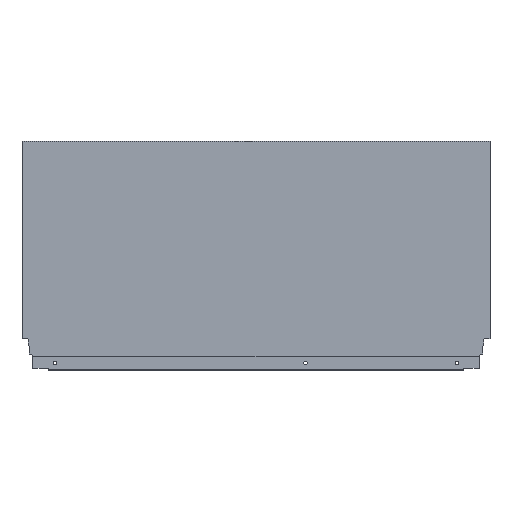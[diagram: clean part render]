
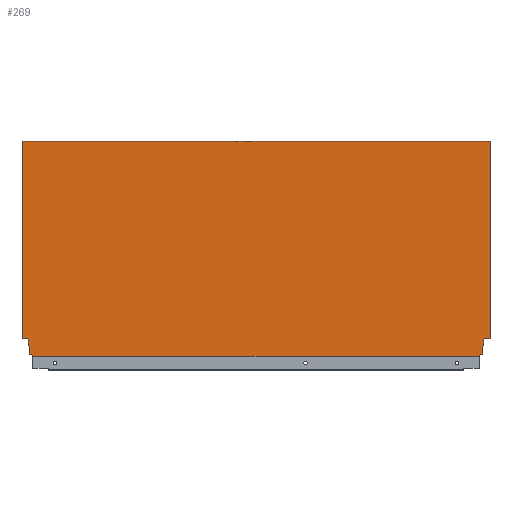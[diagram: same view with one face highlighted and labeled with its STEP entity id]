
A CAD part, top view. The second image highlights one B-rep face of the part: STEP entity #269.
In plain terms, the highlighted planar face has unit normal (0, 0, 1).
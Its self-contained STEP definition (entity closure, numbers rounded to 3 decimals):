
#25 = EDGE_CURVE ( 'NONE', #1181, #1217, #437, .T. ) ;
#40 = AXIS2_PLACEMENT_3D ( 'NONE', #1052, #1040, #1039 ) ;
#121 = EDGE_CURVE ( 'NONE', #1231, #1177, #745, .T. ) ;
#123 = EDGE_CURVE ( 'NONE', #1223, #1231, #314, .T. ) ;
#124 = EDGE_CURVE ( 'NONE', #1223, #1230, #1403, .T. ) ;
#164 = EDGE_CURVE ( 'NONE', #1250, #1181, #1496, .T. ) ;
#166 = EDGE_CURVE ( 'NONE', #1177, #1250, #1514, .T. ) ;
#169 = EDGE_CURVE ( 'NONE', #1227, #1230, #1493, .T. ) ;
#171 = EDGE_CURVE ( 'NONE', #1252, #1208, #1494, .T. ) ;
#175 = EDGE_CURVE ( 'NONE', #1173, #1217, #1486, .T. ) ;
#176 = EDGE_CURVE ( 'NONE', #1173, #1165, #1478, .T. ) ;
#177 = EDGE_CURVE ( 'NONE', #1165, #1235, #1475, .T. ) ;
#180 = EDGE_CURVE ( 'NONE', #1235, #1185, #1487, .T. ) ;
#185 = EDGE_CURVE ( 'NONE', #1208, #1227, #1449, .T. ) ;
#194 = EDGE_CURVE ( 'NONE', #1185, #1252, #1420, .T. ) ;
#210 = CARTESIAN_POINT ( 'NONE',  ( -13.004, 0., 8. ) ) ;
#211 = CARTESIAN_POINT ( 'NONE',  ( -553.996, 1.146, 8. ) ) ;
#212 = CARTESIAN_POINT ( 'NONE',  ( -13.004, 1.146, 8. ) ) ;
#221 = CARTESIAN_POINT ( 'NONE',  ( -8.9, 10.765, 8. ) ) ;
#235 = CARTESIAN_POINT ( 'NONE',  ( 0., 21.2, 8. ) ) ;
#240 = CARTESIAN_POINT ( 'NONE',  ( -558.1, 10.765, 8. ) ) ;
#269 = ADVANCED_FACE ( 'NONE', ( #1464 ), #1057, .T. ) ;
#314 = LINE ( 'NONE', #761, #1501 ) ;
#431 = VECTOR ( 'NONE', #1156, 1000. ) ;
#437 = LINE ( 'NONE', #1159, #431 ) ;
#462 = ORIENTED_EDGE ( 'NONE', *, *, #175, .T. ) ;
#521 = ORIENTED_EDGE ( 'NONE', *, *, #169, .F. ) ;
#569 = ORIENTED_EDGE ( 'NONE', *, *, #25, .F. ) ;
#586 = ORIENTED_EDGE ( 'NONE', *, *, #171, .F. ) ;
#587 = ORIENTED_EDGE ( 'NONE', *, *, #194, .F. ) ;
#588 = ORIENTED_EDGE ( 'NONE', *, *, #180, .F. ) ;
#589 = ORIENTED_EDGE ( 'NONE', *, *, #185, .F. ) ;
#610 = ORIENTED_EDGE ( 'NONE', *, *, #164, .F. ) ;
#612 = ORIENTED_EDGE ( 'NONE', *, *, #166, .F. ) ;
#614 = ORIENTED_EDGE ( 'NONE', *, *, #121, .F. ) ;
#660 = ORIENTED_EDGE ( 'NONE', *, *, #124, .T. ) ;
#733 = EDGE_LOOP ( 'NONE', ( #462, #569, #610, #612, #614, #739, #660, #521, #589, #586, #587, #588, #741, #740 ) ) ;
#739 = ORIENTED_EDGE ( 'NONE', *, *, #123, .F. ) ;
#740 = ORIENTED_EDGE ( 'NONE', *, *, #176, .F. ) ;
#741 = ORIENTED_EDGE ( 'NONE', *, *, #177, .F. ) ;
#745 = LINE ( 'NONE', #1197, #746 ) ;
#746 = VECTOR ( 'NONE', #1133, 1000. ) ;
#752 = CARTESIAN_POINT ( 'NONE',  ( -553.996, 0., 8. ) ) ;
#759 = CARTESIAN_POINT ( 'NONE',  ( -567., 21.2, 8. ) ) ;
#761 = CARTESIAN_POINT ( 'NONE',  ( -553.996, 1.146, 8. ) ) ;
#770 = CARTESIAN_POINT ( 'NONE',  ( -8.9, 2.64, 8. ) ) ;
#791 = CARTESIAN_POINT ( 'NONE',  ( -7.06, 21.2, 8. ) ) ;
#795 = CARTESIAN_POINT ( 'NONE',  ( -559.94, 21.2, 8. ) ) ;
#801 = CARTESIAN_POINT ( 'NONE',  ( -558.1, 2.64, 8. ) ) ;
#808 = CARTESIAN_POINT ( 'NONE',  ( -567., 260.7, 8. ) ) ;
#815 = CARTESIAN_POINT ( 'NONE',  ( 0., 260.7, 8. ) ) ;
#891 = DIRECTION ( 'NONE',  ( 0., 1., 0. ) ) ;
#901 = DIRECTION ( 'NONE',  ( 1., 0., 0. ) ) ;
#902 = CARTESIAN_POINT ( 'NONE',  ( -567., 0., 8. ) ) ;
#968 = CARTESIAN_POINT ( 'NONE',  ( -567., 260.7, 8. ) ) ;
#1039 = DIRECTION ( 'NONE',  ( 1., 0., 0. ) ) ;
#1040 = DIRECTION ( 'NONE',  ( 0., 0., 1. ) ) ;
#1052 = CARTESIAN_POINT ( 'NONE',  ( -567., 0., 8. ) ) ;
#1057 = PLANE ( 'NONE',  #40 ) ;
#1133 = DIRECTION ( 'NONE',  ( -0.94, 0.342, 0. ) ) ;
#1156 = DIRECTION ( 'NONE',  ( -1., 0., 0. ) ) ;
#1159 = CARTESIAN_POINT ( 'NONE',  ( -572., 21.2, 8. ) ) ;
#1165 = VERTEX_POINT ( 'NONE', #815 ) ;
#1173 = VERTEX_POINT ( 'NONE', #808 ) ;
#1177 = VERTEX_POINT ( 'NONE', #801 ) ;
#1181 = VERTEX_POINT ( 'NONE', #795 ) ;
#1185 = VERTEX_POINT ( 'NONE', #791 ) ;
#1197 = CARTESIAN_POINT ( 'NONE',  ( -558.1, 2.64, 8. ) ) ;
#1204 = CARTESIAN_POINT ( 'NONE',  ( 0., 21.2, 8. ) ) ;
#1208 = VERTEX_POINT ( 'NONE', #770 ) ;
#1217 = VERTEX_POINT ( 'NONE', #759 ) ;
#1223 = VERTEX_POINT ( 'NONE', #752 ) ;
#1227 = VERTEX_POINT ( 'NONE', #212 ) ;
#1230 = VERTEX_POINT ( 'NONE', #210 ) ;
#1231 = VERTEX_POINT ( 'NONE', #211 ) ;
#1235 = VERTEX_POINT ( 'NONE', #235 ) ;
#1250 = VERTEX_POINT ( 'NONE', #240 ) ;
#1252 = VERTEX_POINT ( 'NONE', #221 ) ;
#1268 = DIRECTION ( 'NONE',  ( 0., -1., 0. ) ) ;
#1270 = CARTESIAN_POINT ( 'NONE',  ( 0., 0., 8. ) ) ;
#1276 = DIRECTION ( 'NONE',  ( -1., 0., 0. ) ) ;
#1277 = DIRECTION ( 'NONE',  ( 0., -1., 0. ) ) ;
#1280 = DIRECTION ( 'NONE',  ( 1., 0., 0. ) ) ;
#1287 = CARTESIAN_POINT ( 'NONE',  ( -8.9, 10.765, 8. ) ) ;
#1288 = DIRECTION ( 'NONE',  ( 0., -1., 0. ) ) ;
#1292 = DIRECTION ( 'NONE',  ( 0., 1., 0. ) ) ;
#1293 = CARTESIAN_POINT ( 'NONE',  ( -567., 0., 8. ) ) ;
#1294 = DIRECTION ( 'NONE',  ( -0.174, 0.985, 0. ) ) ;
#1306 = CARTESIAN_POINT ( 'NONE',  ( -8.9, 2.64, 8. ) ) ;
#1307 = DIRECTION ( 'NONE',  ( -0.94, -0.342, 0. ) ) ;
#1315 = CARTESIAN_POINT ( 'NONE',  ( -7.06, 21.2, 8. ) ) ;
#1320 = DIRECTION ( 'NONE',  ( -0.174, -0.985, 0. ) ) ;
#1323 = CARTESIAN_POINT ( 'NONE',  ( -558.1, 10.765, 8. ) ) ;
#1344 = CARTESIAN_POINT ( 'NONE',  ( -13.004, 1.146, 8. ) ) ;
#1353 = CARTESIAN_POINT ( 'NONE',  ( -559.94, 21.2, 8. ) ) ;
#1355 = DIRECTION ( 'NONE',  ( 0., -1., 0. ) ) ;
#1402 = VECTOR ( 'NONE', #901, 1000. ) ;
#1403 = LINE ( 'NONE', #902, #1402 ) ;
#1420 = LINE ( 'NONE', #1315, #1458 ) ;
#1447 = VECTOR ( 'NONE', #1307, 1000. ) ;
#1449 = LINE ( 'NONE', #1306, #1447 ) ;
#1458 = VECTOR ( 'NONE', #1320, 1000. ) ;
#1464 = FACE_OUTER_BOUND ( 'NONE', #733, .T. ) ;
#1466 = VECTOR ( 'NONE', #1276, 1000. ) ;
#1473 = VECTOR ( 'NONE', #1277, 1000. ) ;
#1475 = LINE ( 'NONE', #1270, #1473 ) ;
#1477 = VECTOR ( 'NONE', #1280, 1000. ) ;
#1478 = LINE ( 'NONE', #968, #1477 ) ;
#1480 = VECTOR ( 'NONE', #1268, 1000. ) ;
#1486 = LINE ( 'NONE', #1293, #1480 ) ;
#1487 = LINE ( 'NONE', #1204, #1466 ) ;
#1489 = VECTOR ( 'NONE', #1355, 1000. ) ;
#1493 = LINE ( 'NONE', #1344, #1489 ) ;
#1494 = LINE ( 'NONE', #1287, #1517 ) ;
#1495 = VECTOR ( 'NONE', #1294, 1000. ) ;
#1496 = LINE ( 'NONE', #1353, #1495 ) ;
#1501 = VECTOR ( 'NONE', #891, 1000. ) ;
#1511 = VECTOR ( 'NONE', #1292, 1000. ) ;
#1514 = LINE ( 'NONE', #1323, #1511 ) ;
#1517 = VECTOR ( 'NONE', #1288, 1000. ) ;
